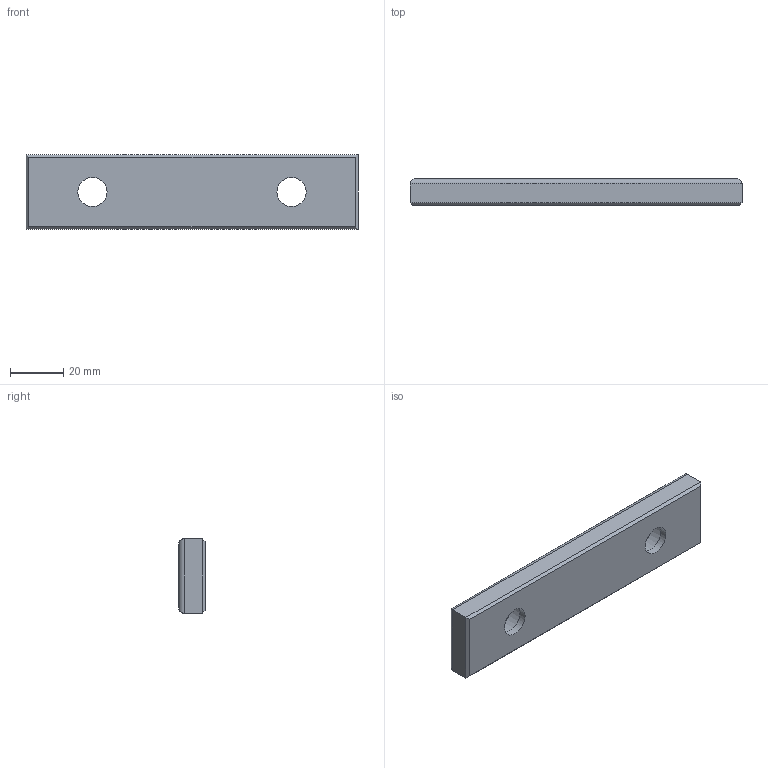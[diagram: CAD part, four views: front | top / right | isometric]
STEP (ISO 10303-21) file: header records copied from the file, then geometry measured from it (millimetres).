
FILE_DESCRIPTION(/* description */ ('Impex Ready, www.impex-ready.pl'),/* implementation_level */ '2;1');
FILE_NAME(/* name */ 'C:\Users\VIKKY\Nextcloud\SM\projekt 10 - części na stronę internetową\Pliki_3D_new\314 Płytki PG05\314_PG05_STEP\PG05.028125.ipt.step',/* time_stamp */ '2021-12-17T17:11:59+01:00',/* author */ ('SM'),/* organization */ (''),/* preprocessor_version */ 'ST-DEVELOPER v18.1',/* originating_system */ 'Autodesk Inventor 2021',/* authorisation */ '');
FILE_SCHEMA (('AUTOMOTIVE_DESIGN { 1 0 10303 214 3 1 1 }'));
Length unit declared in the file: millimetre
Products named in the file (1): PG05.028125
Bounding box: 125 x 10 x 28 mm (x, y, z)
Volume: 30360.3 mm3; surface area: 10246.2 mm2
Topology: 1 solids, 1 shells, 20 faces, 40 edges, 24 vertices
Faces by surface type: plane 12, cylinder 8
Full cylindrical faces by diameter (mm): 11 x2, 18 x2
Entity records: 599 total; most frequent: DIRECTION 94, CARTESIAN_POINT 85, ORIENTED_EDGE 80, EDGE_CURVE 40, AXIS2_PLACEMENT_3D 33, LINE 28, VECTOR 28, EDGE_LOOP 26
